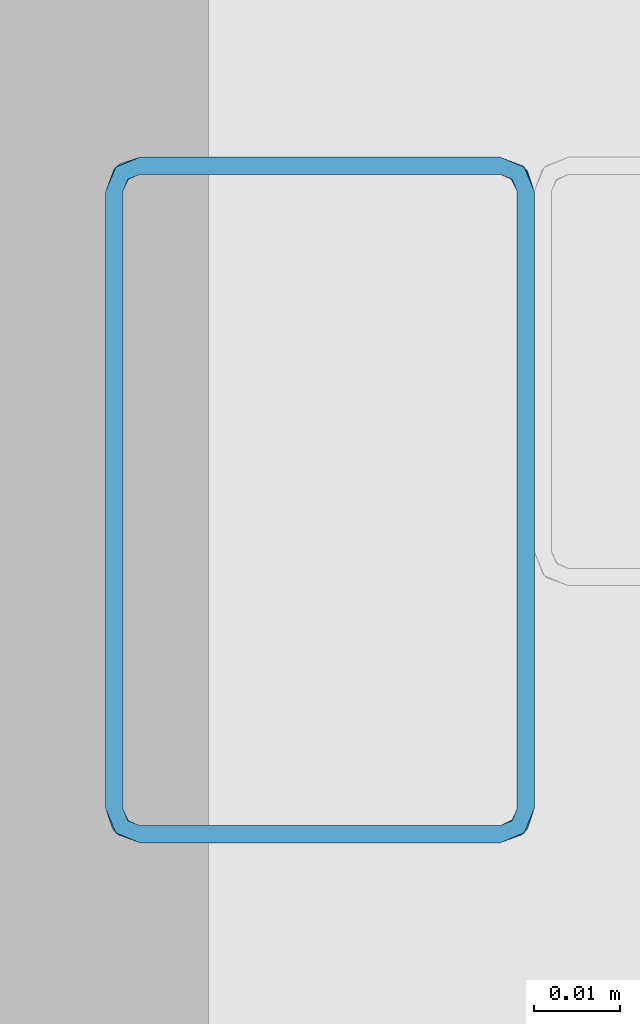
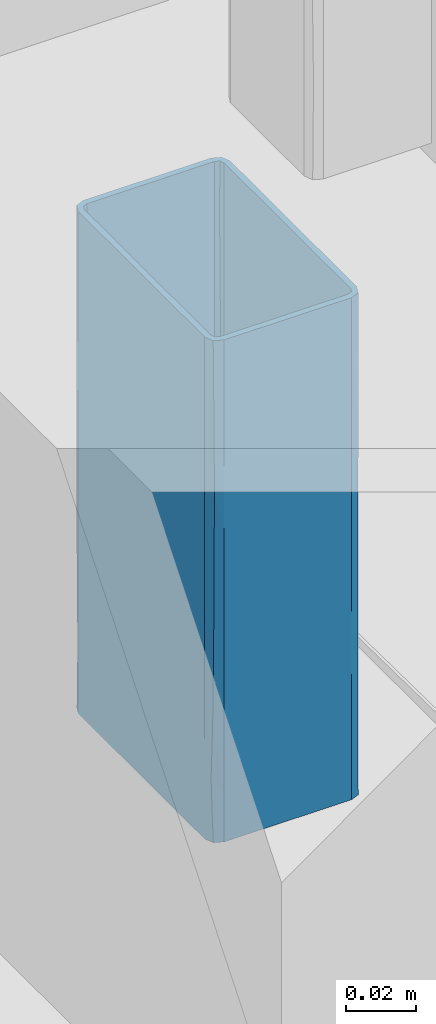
# One storey, part 148 of 186: 1 beam.
"""IFC4X3_ADD2 building model written with IfcOpenShell, lengths in millimetres."""

from ifc_helpers import new_model, si_unit, direction, frame, origin_with_axes, place, context, subcontext, project, spatial, polygons, element, save


model = new_model("IFC4X3_ADD2")

# Units and contexts
model_context = context("Model", 3, precision=1e-05, world=origin_with_axes(), true_north=direction((0.0, 1.0)))
body_context = subcontext(model_context, "Body", "Model", "MODEL_VIEW")
ifc_project = project(units=[si_unit("LENGTHUNIT", "METRE", prefix="MILLI"), si_unit("AREAUNIT", "SQUARE_METRE"), si_unit("VOLUMEUNIT", "CUBIC_METRE"), si_unit("PLANEANGLEUNIT", "RADIAN"), si_unit("TIMEUNIT", "SECOND"), si_unit("MASSUNIT", "GRAM")], contexts=[model_context])

# Site, building, storey
site_placement = place(None, origin_with_axes())
site = spatial("IfcSite", under=ifc_project, at=site_placement, Name="Site", CompositionType="ELEMENT")
building_placement = place(site_placement, origin_with_axes())
building = spatial("IfcBuilding", under=site, at=building_placement, Name="IFC Building Story")
storey_placement = place(building_placement, frame((0.0, 0.0, 4370.0), z_axis=(0.0, 0.0, 1.0), x_axis=(1.0, 0.0, 0.0)))
storey = spatial("IfcBuildingStorey", under=building, at=storey_placement, Name="ETAGE 10 (1)", Elevation=4370.0)

# Beam
beam_placement = place(storey_placement, frame((0.0, 0.0, -4370.0), z_axis=(0.0, 0.0, 1.0), x_axis=(1.0, 0.0, 0.0)))
element("IfcBeam", 1, at=beam_placement, inside=storey, Name="PS9", ObjectType="K50*80*2", context=body_context, shape_type="Tessellation", body=[
    polygons([(48273.18869887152, -14300.99999267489, 7529.38461931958), (48271.18869887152, -14300.99999267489, 7529.38461931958), (48273.77448530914, -14302.41420623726, 7529.38461931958), (48271.18869887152, -14228.99999267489, 7529.38461931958), (48273.18869887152, -14228.99999267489, 7529.38461931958), (48273.77448530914, -14227.58577911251, 7529.38461931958), (48272.36027174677, -14226.17156555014, 7529.38461931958), (48275.18869887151, -14224.99999267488, 7529.38461931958), (48275.18869887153, -14226.99999267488, 7529.38461931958), (48317.18869887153, -14226.99999267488, 7529.38461931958), (48317.18869887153, -14224.99999267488, 7529.38461931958), (48318.6029124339, -14227.58577911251, 7529.38461931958), (48320.01712599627, -14226.17156555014, 7529.38461931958), (48321.18869887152, -14228.99999267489, 7529.38461931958), (48319.18869887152, -14228.99999267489, 7529.38461931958), (48319.18869887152, -14300.99999267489, 7529.38461931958), (48321.18869887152, -14300.99999267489, 7529.38461931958), (48318.6029124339, -14302.41420623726, 7529.38461931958), (48320.01712599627, -14303.82841979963, 7529.38461931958), (48317.18869887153, -14304.99999267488, 7529.38461931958), (48317.18869887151, -14302.99999267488, 7529.38461931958), (48275.18869887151, -14304.99999267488, 7529.38461931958), (48275.18869887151, -14302.99999267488, 7529.38461931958), (48272.36027174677, -14303.82841979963, 7529.38461931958), (48319.18869887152, -14300.99999267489, 7355.004619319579), (48321.18869887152, -14300.99999267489, 7355.004619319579), (48318.6029124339, -14302.41420623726, 7355.004619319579), (48321.18869887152, -14228.99999267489, 7355.004619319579), (48319.18869887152, -14228.99999267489, 7355.004619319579), (48318.6029124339, -14227.58577911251, 7355.004619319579), (48320.01712599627, -14226.17156555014, 7355.004619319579), (48317.18869887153, -14224.99999267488, 7355.004619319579), (48317.18869887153, -14226.99999267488, 7355.004619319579), (48275.18869887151, -14226.99999267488, 7355.004619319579), (48275.18869887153, -14224.99999267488, 7355.004619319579), (48273.77448530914, -14227.58577911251, 7355.004619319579), (48272.36027174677, -14226.17156555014, 7355.004619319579), (48271.18869887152, -14228.99999267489, 7355.004619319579), (48273.18869887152, -14228.99999267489, 7355.004619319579), (48273.18869887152, -14300.99999267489, 7355.004619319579), (48271.18869887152, -14300.99999267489, 7355.004619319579), (48273.77448530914, -14302.41420623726, 7355.004619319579), (48272.36027174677, -14303.82841979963, 7355.004619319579), (48275.18869887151, -14304.99999267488, 7355.004619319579), (48275.18869887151, -14302.99999267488, 7355.004619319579), (48317.18869887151, -14304.99999267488, 7355.004619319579), (48317.18869887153, -14302.99999267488, 7355.004619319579), (48320.01712599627, -14303.82841979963, 7355.004619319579), (48271.18869887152, -14228.99999267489, 7511.926096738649), (48271.18869887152, -14228.99999267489, 7485.789617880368), (48271.18869887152, -14228.99999267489, 7463.992120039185), (48271.18869887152, -14228.99999267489, 7442.19461931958), (48271.18869887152, -14228.99999267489, 7420.397118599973), (48271.18869887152, -14228.99999267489, 7398.599620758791), (48271.18869887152, -14228.99999267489, 7372.463141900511), (48271.18869887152, -14300.99999267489, 7389.921664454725), (48271.18869887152, -14300.99999267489, 7407.277574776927), (48271.18869887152, -14300.99999267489, 7433.414051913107), (48271.18869887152, -14300.99999267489, 7459.550529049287), (48271.18869887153, -14300.99999267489, 7477.009052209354), (48271.18869887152, -14300.99999267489, 7494.467574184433), (48272.2778242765, -14303.74349574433, 7398.599621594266), (48275.18869887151, -14304.99999267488, 7420.397119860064), (48272.49011275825, -14303.95255647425, 7431.295871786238), (48275.18869887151, -14304.99999267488, 7372.463140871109), (48271.9483212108, -14303.34519045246, 7376.72287603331), (48272.53356876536, -14303.99169522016, 7498.857858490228), (48275.18869887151, -14304.99999267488, 7442.19461931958), (48275.18869887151, -14304.99999267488, 7511.926097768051), (48272.55884567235, -14304.01393895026, 7455.854339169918), (48275.18869887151, -14304.99999267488, 7398.59961823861), (48272.62562266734, -14304.07092744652, 7477.36024630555), (48275.18869887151, -14304.99999267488, 7485.789620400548), (48275.18869887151, -14304.99999267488, 7463.992118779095), (48317.18869887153, -14304.99999267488, 7372.463142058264), (48317.18869887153, -14304.99999267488, 7398.59961931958), (48317.18869887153, -14304.99999267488, 7420.397119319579), (48317.18869887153, -14304.99999267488, 7442.19461931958), (48317.18869887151, -14304.99999267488, 7463.992119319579), (48317.18869887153, -14304.99999267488, 7485.789619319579), (48317.18869887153, -14304.99999267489, 7511.926096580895), (48321.18869887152, -14300.99999267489, 7389.921665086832), (48319.84382889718, -14303.9916952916, 7385.53138470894), (48320.09957345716, -14303.7434957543, 7485.789620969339), (48319.88728500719, -14303.95255645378, 7453.093371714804), (48321.18869887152, -14300.99999267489, 7477.111664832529), (48321.18869887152, -14300.99999267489, 7494.467573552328), (48320.42907649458, -14303.34519050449, 7507.666364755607), (48319.81855215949, -14304.01393887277, 7428.534906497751), (48321.18869887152, -14300.99999267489, 7424.83871034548), (48321.18869887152, -14300.99999267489, 7450.975187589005), (48319.7517753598, -14304.07092720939, 7407.028998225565), (48321.18869887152, -14300.99999267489, 7407.380187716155), (48321.18869887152, -14228.99999267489, 7389.92166434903), (48321.18869887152, -14228.99999267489, 7416.058141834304), (48321.18869887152, -14228.99999267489, 7442.19461931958), (48321.18869887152, -14228.99999267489, 7463.992119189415), (48321.18869887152, -14228.99999267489, 7485.789619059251), (48321.18869887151, -14228.99999267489, 7511.926096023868), (48320.18040139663, -14226.344862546, 7498.857859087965), (48320.03662467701, -14226.19119958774, 7472.334605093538), (48317.18869887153, -14224.99999267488, 7494.467574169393), (48320.01712611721, -14226.17156567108, 7398.599623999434), (48320.41884628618, -14226.64072421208, 7376.802122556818), (48319.8427820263, -14226.00736128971, 7446.482292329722), (48319.91510073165, -14226.07309450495, 7422.535377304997), (48317.18869887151, -14224.99999267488, 7433.414050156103), (48317.18869887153, -14224.99999267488, 7389.921664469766), (48317.18869887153, -14224.99999267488, 7407.277572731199), (48317.18869887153, -14224.99999267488, 7459.550527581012), (48275.18869887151, -14224.99999267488, 7389.921665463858), (48275.18869887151, -14224.99999267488, 7407.277574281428), (48275.18869887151, -14224.99999267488, 7433.414051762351), (48275.18869887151, -14224.99999267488, 7459.550529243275), (48275.18869887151, -14224.99999267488, 7477.009051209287), (48275.18869887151, -14224.99999267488, 7494.467574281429), (48272.44519583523, -14226.08911804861, 7398.599622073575), (48272.23613508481, -14226.30140654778, 7431.295872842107), (48272.84350110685, -14225.75961500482, 7376.722876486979), (48272.19699633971, -14226.34486255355, 7498.85785887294), (48272.174752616, -14226.37013945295, 7455.854339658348), (48272.11776412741, -14226.43691643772, 7477.360246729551), (48275.18869887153, -14226.99999267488, 7480.004460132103), (48273.77448535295, -14227.5857790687, 7486.176980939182), (48273.77448534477, -14227.58577907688, 7472.971613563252), (48273.762337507, -14227.5980321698, 7386.463759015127), (48273.69269343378, -14227.67260134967, 7373.522180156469), (48275.18869887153, -14226.99999267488, 7373.909539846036), (48273.18869887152, -14228.99999267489, 7420.397119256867), (48273.18869887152, -14228.99999267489, 7409.498369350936), (48273.73229899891, -14227.62926315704, 7414.947746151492), (48273.75207338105, -14227.6085519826, 7449.141862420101), (48273.18869887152, -14228.99999267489, 7442.19461931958), (48273.90234918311, -14227.46855397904, 7438.221819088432), (48275.18869887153, -14226.99999267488, 7455.314380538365), (48273.84825054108, -14227.51567523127, 7461.00510020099), (48275.18869887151, -14226.99999267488, 7392.814459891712), (48273.18869887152, -14228.99999267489, 7367.349659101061), (48273.18869887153, -14228.99999267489, 7517.039579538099), (48273.18869887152, -14228.99999267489, 7492.34950022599), (48273.18869887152, -14228.99999267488, 7480.004460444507), (48275.18869887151, -14226.99999267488, 7492.349499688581), (48273.82248151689, -14227.53935920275, 7498.522020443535), (48273.84233664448, -14227.5210373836, 7398.285702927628), (48273.18869887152, -14228.99999267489, 7398.599619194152), (48275.18869887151, -14226.99999267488, 7517.039579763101), (48273.77448533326, -14227.5857790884, 7510.867059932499), (48275.18869887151, -14226.99999267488, 7504.694539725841), (48273.18869887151, -14228.99999267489, 7504.694540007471), (48273.18869887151, -14228.99999267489, 7379.694698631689), (48273.18869887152, -14228.99999267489, 7461.099539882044), (48275.18869887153, -14226.99999267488, 7467.659420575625), (48275.18869887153, -14226.99999267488, 7411.719380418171), (48275.18869887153, -14226.99999267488, 7430.624300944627), (48273.69095856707, -14227.67455916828, 7427.406743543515), (48273.18869887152, -14228.99999267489, 7431.295869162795), (48275.18869887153, -14226.99999267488, 7442.969340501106), (48317.18869887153, -14226.99999267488, 7367.349659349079), (48317.18869887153, -14226.99999267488, 7376.802119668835), (48317.18869887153, -14226.99999267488, 7387.700869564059), (48317.18869887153, -14226.99999267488, 7398.599619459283), (48317.18869887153, -14226.99999267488, 7409.498369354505), (48317.18869887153, -14226.99999267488, 7420.397119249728), (48317.18869887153, -14226.99999267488, 7431.295869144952), (48317.18869887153, -14226.99999267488, 7442.194619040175), (48317.18869887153, -14226.99999267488, 7453.093368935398), (48317.18869887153, -14226.99999267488, 7463.992118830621), (48317.18869887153, -14226.99999267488, 7474.890868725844), (48317.18869887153, -14226.99999267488, 7485.789619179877), (48317.18869887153, -14226.99999267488, 7504.694539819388), (48317.18869887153, -14226.99999267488, 7517.039579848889), (48318.49995586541, -14227.48982543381, 7405.362373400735), (48318.53825077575, -14227.52394739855, 7393.150245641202), (48318.57894189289, -14227.56220814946, 7448.441924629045), (48318.69067101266, -14227.67935658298, 7460.874047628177), (48318.4083444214, -14227.41491705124, 7382.566985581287), (48319.18869887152, -14228.99999267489, 7510.479698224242), (48318.5160902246, -14227.50398726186, 7510.867060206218), (48319.18869887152, -14228.99999267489, 7367.349658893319), (48319.18869887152, -14228.99999267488, 7404.384778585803), (48319.18869887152, -14228.99999267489, 7392.039739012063), (48318.67185384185, -14227.658258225, 7422.902339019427), (48319.18869887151, -14228.99999267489, 7379.694698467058), (48318.60291241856, -14227.58577909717, 7372.075889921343), (48318.59065938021, -14227.5736313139, 7497.925482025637), (48318.61548330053, -14227.5984627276, 7435.851234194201), (48319.18869887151, -14228.99999267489, 7429.074858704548), (48319.18869887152, -14228.99999267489, 7416.729818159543), (48319.18869887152, -14228.99999267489, 7441.419898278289), (48319.18869887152, -14228.99999267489, 7491.574778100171), (48318.66617873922, -14227.65201150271, 7480.340245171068), (48319.18869887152, -14228.99999267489, 7472.669857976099), (48319.18869887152, -14228.99999267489, 7453.764937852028), (48319.18869887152, -14300.99999267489, 7367.349659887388), (48319.18869887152, -14300.99999267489, 7376.802119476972), (48319.18869887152, -14300.99999267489, 7387.700868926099), (48319.18869887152, -14300.99999267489, 7398.599619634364), (48319.18869887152, -14300.99999267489, 7409.498370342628), (48319.18869887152, -14300.99999267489, 7420.397119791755), (48319.18869887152, -14300.99999267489, 7431.295869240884), (48319.18869887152, -14300.99999267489, 7442.194619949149), (48319.18869887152, -14300.99999267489, 7453.093370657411), (48319.18869887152, -14300.99999267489, 7463.992120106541), (48319.18869887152, -14300.99999267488, 7474.890869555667), (48319.18869887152, -14300.99999267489, 7485.789620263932), (48319.18869887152, -14300.99999267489, 7504.694540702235), (48319.18869887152, -14300.99999267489, 7517.039580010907), (48318.6988661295, -14302.3112496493, 7405.362373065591), (48318.66474415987, -14302.34954456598, 7393.150245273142), (48318.62648341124, -14302.39023568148, 7448.441924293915), (48318.50933497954, -14302.50196480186, 7460.874047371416), (48318.77377449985, -14302.21963821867, 7382.566985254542), (48317.18869887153, -14302.99999267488, 7510.479699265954), (48318.684704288, -14302.32738402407, 7510.867060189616), (48317.18869887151, -14302.99999267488, 7367.349659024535), (48317.18869887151, -14302.99999267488, 7404.384778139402), (48317.18869887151, -14302.99999267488, 7392.039738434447), (48318.53043334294, -14302.48314762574, 7422.902338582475), (48318.60291244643, -14302.41420622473, 7372.075889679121), (48318.61506023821, -14302.40195317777, 7497.925481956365), (48318.59022884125, -14302.42677708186, 7435.851233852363), (48317.18869887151, -14302.99999267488, 7379.694698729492), (48317.18869887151, -14302.99999267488, 7429.074857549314), (48317.18869887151, -14302.99999267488, 7416.72981784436), (48317.18869887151, -14302.99999267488, 7441.419897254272), (48317.18869887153, -14302.99999267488, 7491.574778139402), (48318.53668005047, -14302.4774725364, 7480.340245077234), (48317.18869887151, -14302.99999267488, 7472.669857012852), (48317.18869887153, -14302.99999267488, 7453.764936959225), (48275.18869887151, -14302.99999267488, 7367.349659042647), (48275.18869887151, -14302.99999267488, 7379.694698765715), (48275.18869887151, -14302.99999267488, 7392.03973848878), (48275.18869887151, -14302.99999267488, 7404.384778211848), (48275.18869887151, -14302.99999267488, 7416.729817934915), (48275.18869887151, -14302.99999267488, 7429.074857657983), (48275.18869887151, -14302.99999267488, 7441.419897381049), (48275.18869887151, -14302.99999267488, 7453.764937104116), (48275.18869887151, -14302.99999267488, 7472.669857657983), (48275.18869887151, -14302.99999267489, 7491.574778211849), (48275.18869887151, -14302.99999267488, 7510.479698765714), (48273.76233749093, -14302.40195316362, 7497.925482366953), (48273.69269344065, -14302.32738400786, 7510.867060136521), (48273.84825044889, -14302.48431003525, 7423.384142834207), (48273.75207328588, -14302.39143326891, 7435.247379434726), (48273.77448535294, -14302.41420628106, 7373.522182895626), (48273.77448537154, -14302.41420629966, 7386.727548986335), (48273.18869887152, -14300.99999267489, 7379.694699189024), (48273.18869887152, -14300.99999267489, 7463.992119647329), (48273.18869887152, -14300.99999267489, 7474.890869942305), (48273.73229892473, -14302.3707221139, 7469.441496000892), (48273.18869887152, -14300.99999267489, 7517.039579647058), (48273.18869887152, -14300.99999267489, 7367.349659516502), (48273.90234900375, -14302.53143122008, 7446.16742321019), (48273.84233657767, -14302.47894790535, 7486.103539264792), (48273.18869887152, -14300.99999267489, 7485.789619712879), (48273.18869887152, -14300.99999267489, 7392.039738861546), (48273.7113880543, -14302.34815911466, 7398.682110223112), (48273.18869887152, -14300.99999267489, 7504.694539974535), (48273.77000637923, -14302.40971307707, 7410.639040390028), (48273.6909585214, -14302.32542612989, 7456.982499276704), (48273.18869887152, -14300.99999267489, 7453.093369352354), (48273.18869887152, -14300.99999267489, 7442.194619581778), (48273.18869887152, -14300.99999267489, 7423.289699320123), (48273.18869887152, -14300.99999267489, 7404.384779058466)], [[[1, 2, 3]], [[2, 1, 4]], [[5, 4, 1]], [[6, 4, 5]], [[7, 4, 6]], [[6, 8, 7]], [[6, 9, 8]], [[8, 9, 10]], [[10, 11, 8]], [[10, 12, 11]], [[11, 12, 13]], [[14, 13, 12]], [[14, 12, 15]], [[14, 15, 16]], [[16, 17, 14]], [[18, 17, 16]], [[17, 18, 19]], [[18, 20, 19]], [[21, 20, 18]], [[20, 21, 22]], [[23, 22, 21]], [[3, 22, 23]], [[22, 3, 24]], [[3, 2, 24]], [[25, 26, 27]], [[26, 25, 28]], [[29, 28, 25]], [[30, 28, 29]], [[31, 28, 30]], [[30, 32, 31]], [[30, 33, 32]], [[32, 33, 34]], [[34, 35, 32]], [[34, 36, 35]], [[35, 36, 37]], [[38, 37, 36]], [[38, 36, 39]], [[38, 39, 40]], [[40, 41, 38]], [[42, 41, 40]], [[41, 42, 43]], [[42, 44, 43]], [[45, 44, 42]], [[44, 45, 46]], [[47, 46, 45]], [[27, 46, 47]], [[46, 27, 48]], [[27, 26, 48]], [[55, 38, 41]], [[55, 41, 56]], [[56, 57, 54]], [[56, 54, 55]], [[57, 58, 53]], [[57, 53, 54]], [[58, 52, 53]], [[58, 59, 51]], [[58, 51, 52]], [[60, 61, 50]], [[50, 51, 59]], [[50, 59, 60]], [[61, 49, 50]], [[61, 2, 4]], [[61, 4, 49]], [[62, 63, 64]], [[65, 62, 66]], [[2, 61, 67]], [[64, 63, 68]], [[69, 22, 24]], [[43, 44, 65]], [[62, 56, 66]], [[70, 59, 58]], [[57, 56, 62]], [[71, 63, 62, 65]], [[24, 2, 67]], [[59, 72, 61, 60]], [[41, 43, 66]], [[58, 64, 70]], [[64, 57, 62]], [[73, 69, 67]], [[64, 68, 70]], [[64, 58, 57]], [[70, 68, 74]], [[73, 67, 72]], [[41, 66, 56]], [[65, 66, 43]], [[24, 67, 69]], [[72, 59, 70]], [[72, 67, 61]], [[72, 74, 73]], [[74, 72, 70]], [[65, 44, 46]], [[65, 46, 75]], [[75, 76, 71]], [[75, 71, 65]], [[76, 77, 63]], [[76, 63, 71]], [[77, 78, 68]], [[77, 68, 63]], [[78, 79, 74]], [[78, 74, 68]], [[79, 80, 73]], [[79, 73, 74]], [[80, 81, 69]], [[80, 69, 73]], [[81, 20, 22]], [[81, 22, 69]], [[26, 82, 83]], [[80, 79, 84, 81]], [[85, 84, 79]], [[86, 87, 84]], [[85, 79, 78]], [[81, 84, 88]], [[84, 87, 88]], [[48, 26, 83]], [[89, 90, 91]], [[90, 92, 82, 93]], [[17, 19, 88]], [[91, 85, 89]], [[75, 83, 76]], [[85, 86, 84]], [[75, 46, 48]], [[19, 20, 81]], [[85, 78, 89]], [[85, 91, 86]], [[89, 78, 77]], [[76, 83, 92]], [[17, 88, 87]], [[81, 88, 19]], [[48, 83, 75]], [[92, 90, 89]], [[92, 83, 82]], [[92, 77, 76]], [[77, 92, 89]], [[82, 26, 28]], [[82, 28, 94]], [[94, 95, 93]], [[94, 93, 82]], [[95, 90, 93]], [[95, 96, 91]], [[95, 91, 90]], [[97, 98, 86]], [[97, 86, 91]], [[91, 96, 97]], [[98, 87, 86]], [[99, 14, 17]], [[99, 17, 87]], [[87, 98, 99]], [[99, 98, 100]], [[101, 102, 100]], [[103, 94, 104]], [[11, 13, 100]], [[31, 104, 28]], [[105, 106, 107]], [[108, 109, 103]], [[97, 105, 101]], [[13, 99, 100]], [[32, 108, 104]], [[101, 105, 110]], [[103, 104, 108]], [[106, 109, 107]], [[13, 14, 99]], [[110, 105, 107]], [[95, 103, 106]], [[95, 94, 103]], [[106, 96, 95]], [[102, 101, 110]], [[97, 96, 105]], [[106, 105, 96]], [[109, 106, 103]], [[101, 100, 98]], [[100, 102, 11]], [[28, 104, 94]], [[104, 31, 32]], [[101, 98, 97]], [[108, 32, 35]], [[108, 35, 111]], [[111, 112, 109]], [[111, 109, 108]], [[112, 113, 107]], [[112, 107, 109]], [[113, 114, 110]], [[113, 110, 107]], [[115, 116, 102]], [[102, 110, 114]], [[102, 114, 115]], [[116, 8, 11]], [[116, 11, 102]], [[117, 53, 118]], [[55, 117, 119]], [[8, 116, 120]], [[118, 53, 52]], [[49, 4, 7]], [[37, 38, 55]], [[117, 111, 119]], [[121, 114, 113]], [[112, 111, 117]], [[54, 53, 117, 55]], [[7, 8, 120]], [[114, 122, 116, 115]], [[35, 37, 119]], [[113, 118, 121]], [[118, 112, 117]], [[50, 49, 120]], [[118, 52, 121]], [[118, 113, 112]], [[121, 52, 51]], [[50, 120, 122]], [[35, 119, 111]], [[55, 119, 37]], [[7, 120, 49]], [[122, 114, 121]], [[122, 120, 116]], [[122, 51, 50]], [[51, 122, 121]], [[123, 124, 125]], [[126, 127, 128]], [[129, 130, 131]], [[132, 133, 134]], [[132, 135, 136]], [[126, 128, 137]], [[138, 39, 36]], [[6, 5, 139]], [[36, 127, 138]], [[125, 124, 140, 141]], [[142, 143, 124]], [[144, 145, 126]], [[142, 124, 123]], [[146, 147, 148]], [[140, 143, 149]], [[36, 34, 128]], [[146, 9, 6]], [[138, 127, 150]], [[147, 6, 139]], [[6, 147, 146]], [[143, 147, 149]], [[143, 142, 148]], [[149, 147, 139]], [[132, 151, 133]], [[152, 123, 125]], [[125, 141, 151]], [[126, 150, 127]], [[128, 127, 36]], [[126, 145, 150]], [[131, 153, 154]], [[124, 143, 140]], [[147, 143, 148]], [[130, 145, 144]], [[135, 152, 136]], [[144, 126, 137]], [[155, 131, 154]], [[144, 137, 153]], [[155, 129, 131]], [[144, 131, 130]], [[153, 131, 144]], [[156, 129, 155]], [[132, 134, 157]], [[135, 132, 157]], [[154, 134, 155]], [[151, 132, 136]], [[136, 125, 151]], [[125, 136, 152]], [[157, 134, 154]], [[133, 156, 134]], [[156, 155, 134]], [[158, 159, 128]], [[128, 34, 33]], [[128, 33, 158]], [[159, 160, 137]], [[159, 137, 128]], [[161, 162, 153]], [[161, 153, 137]], [[137, 160, 161]], [[163, 164, 154]], [[163, 154, 153]], [[153, 162, 163]], [[164, 165, 157]], [[164, 157, 154]], [[165, 166, 135]], [[165, 135, 157]], [[166, 167, 152]], [[166, 152, 135]], [[167, 168, 123]], [[167, 123, 152]], [[168, 169, 142]], [[168, 142, 123]], [[169, 170, 148]], [[169, 148, 142]], [[170, 171, 146]], [[170, 146, 148]], [[171, 10, 9]], [[171, 9, 146]], [[172, 161, 173]], [[166, 174, 175]], [[160, 159, 176]], [[177, 12, 178]], [[15, 12, 177]], [[30, 29, 179]], [[180, 173, 181]], [[172, 182, 162]], [[179, 183, 184]], [[170, 185, 178]], [[165, 186, 174]], [[170, 178, 171]], [[184, 159, 158]], [[158, 33, 30]], [[12, 10, 171]], [[178, 185, 177]], [[184, 183, 176]], [[30, 184, 158]], [[179, 184, 30]], [[160, 176, 173]], [[160, 173, 161]], [[180, 172, 173]], [[183, 181, 176]], [[187, 186, 182]], [[163, 162, 182, 164]], [[188, 182, 172]], [[187, 182, 188]], [[172, 180, 188]], [[186, 164, 182]], [[181, 173, 176]], [[186, 189, 174]], [[171, 178, 12]], [[190, 177, 185]], [[190, 185, 191]], [[185, 170, 169]], [[167, 166, 175, 168]], [[168, 191, 169]], [[191, 175, 192]], [[175, 174, 193]], [[175, 193, 192]], [[175, 191, 168]], [[169, 191, 185]], [[191, 192, 190]], [[193, 174, 189]], [[186, 187, 189]], [[184, 176, 159]], [[162, 161, 172]], [[166, 165, 174]], [[186, 165, 164]], [[179, 29, 25]], [[179, 25, 194]], [[194, 195, 183]], [[194, 183, 179]], [[195, 196, 181]], [[195, 181, 183]], [[197, 198, 180]], [[180, 181, 196]], [[180, 196, 197]], [[198, 199, 188]], [[198, 188, 180]], [[199, 200, 187]], [[199, 187, 188]], [[200, 201, 189]], [[200, 189, 187]], [[201, 202, 193]], [[201, 193, 189]], [[203, 204, 192]], [[192, 193, 202]], [[192, 202, 203]], [[204, 205, 190]], [[204, 190, 192]], [[205, 206, 177]], [[205, 177, 190]], [[207, 16, 15]], [[207, 15, 177]], [[177, 206, 207]], [[208, 197, 209]], [[202, 210, 211]], [[196, 195, 212]], [[213, 18, 214]], [[21, 18, 213]], [[27, 47, 215]], [[216, 209, 217]], [[208, 218, 198]], [[27, 215, 219]], [[206, 220, 214]], [[201, 221, 210]], [[222, 212, 219]], [[206, 214, 207]], [[194, 27, 219, 195]], [[194, 25, 27]], [[18, 16, 207]], [[214, 220, 213]], [[219, 215, 222]], [[196, 212, 209]], [[196, 209, 197]], [[216, 208, 209]], [[222, 217, 212]], [[223, 221, 218]], [[199, 198, 218, 200]], [[224, 218, 208]], [[223, 218, 224]], [[208, 216, 224]], [[221, 200, 218]], [[217, 209, 212]], [[221, 225, 210]], [[207, 214, 18]], [[226, 213, 220]], [[226, 220, 227]], [[220, 206, 205]], [[203, 202, 211, 204]], [[204, 227, 205]], [[227, 211, 228]], [[211, 210, 229]], [[211, 229, 228]], [[211, 227, 204]], [[205, 227, 220]], [[227, 228, 226]], [[229, 210, 225]], [[221, 223, 225]], [[219, 212, 195]], [[198, 197, 208]], [[202, 201, 210]], [[221, 201, 200]], [[215, 47, 45]], [[215, 45, 230]], [[230, 231, 222]], [[230, 222, 215]], [[231, 232, 217]], [[231, 217, 222]], [[232, 233, 216]], [[232, 216, 217]], [[233, 234, 224]], [[233, 224, 216]], [[234, 235, 223]], [[234, 223, 224]], [[235, 236, 225]], [[235, 225, 223]], [[236, 237, 229]], [[236, 229, 225]], [[237, 238, 228]], [[237, 228, 229]], [[238, 239, 226]], [[238, 226, 228]], [[239, 240, 213]], [[239, 213, 226]], [[240, 23, 21]], [[240, 21, 213]], [[241, 242, 240]], [[243, 244, 235]], [[231, 230, 245]], [[246, 245, 247]], [[235, 244, 236]], [[248, 249, 250]], [[251, 1, 3]], [[40, 252, 42]], [[240, 239, 241]], [[253, 236, 244]], [[3, 242, 251]], [[254, 255, 241]], [[246, 256, 257]], [[42, 245, 230]], [[3, 23, 240]], [[230, 45, 42]], [[251, 242, 258]], [[252, 247, 245]], [[42, 252, 245]], [[231, 245, 246]], [[232, 231, 246]], [[257, 259, 233]], [[241, 258, 242]], [[240, 242, 3]], [[241, 255, 258]], [[250, 238, 237]], [[249, 255, 254]], [[233, 232, 257]], [[246, 247, 256]], [[254, 241, 239]], [[260, 250, 237]], [[254, 239, 238]], [[260, 248, 250]], [[254, 250, 249]], [[238, 250, 254]], [[261, 248, 260]], [[262, 253, 244]], [[244, 263, 262]], [[237, 253, 260]], [[243, 259, 263]], [[263, 244, 243]], [[264, 263, 259]], [[243, 234, 259]], [[234, 233, 259]], [[243, 235, 234]], [[257, 264, 259]], [[264, 257, 256]], [[232, 246, 257]], [[236, 253, 237]], [[262, 261, 253]], [[261, 260, 253]], [[252, 40, 39]], [[252, 39, 138]], [[138, 150, 247]], [[138, 247, 252]], [[150, 145, 256]], [[150, 256, 247]], [[145, 130, 264]], [[145, 264, 256]], [[130, 129, 263]], [[130, 263, 264]], [[156, 133, 262]], [[156, 262, 263]], [[263, 129, 156]], [[133, 151, 261]], [[133, 261, 262]], [[151, 248, 261]], [[151, 141, 249]], [[151, 249, 248]], [[141, 255, 249]], [[140, 149, 258]], [[140, 258, 255]], [[255, 141, 140]], [[149, 139, 251]], [[149, 251, 258]], [[139, 5, 1]], [[139, 1, 251]]]),
])

save(model, "model.ifc")
